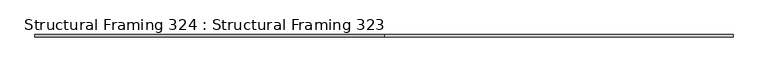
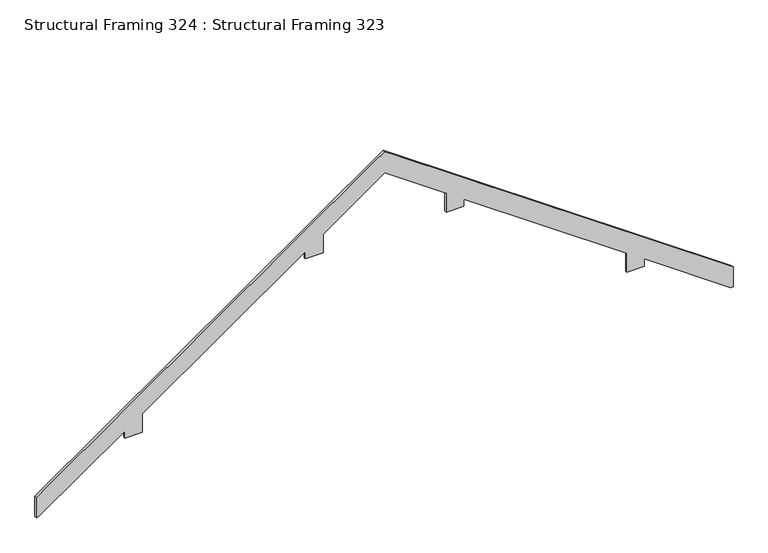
"""IFC4 building model written with IfcOpenShell, lengths in millimetres: beam geometry, Structural Framing 324 : Structural Framing 323."""

from ifc_helpers import new_model, si_unit, origin, place, context, project, spatial, faceted_brep, source, transform, mapped, element, save


def structural_framing_324_structural_framing_323_6074106b(model_context):
    return source(origin(), model_context, "Body", "Brep", [
        faceted_brep([(-2719.0115151, 3950.5508021, -144.1919814), (-2744.0115151, 3950.5508021, -144.1919814), (-2744.0115151, 3950.5508021, 94.6612147), (1206.7789073, 3950.5508021, 2861.0344503), (5157.5693297, 3950.5508021, 94.6612147), (5157.5693297, 3950.5508021, -144.1919814), (5132.5693297, 3950.5508021, -144.1919814), (4152.5693297, 3950.5508021, 542.0114061), (4152.5693297, 3950.5508021, 456.0155568), (3952.5693297, 3950.5508021, 456.0155568), (3952.5693297, 3950.5508021, 682.0529137), (2104.6892189, 3950.5508021, 1975.9524969), (2104.6892189, 3950.5508021, 1889.9566477), (1904.6892189, 3950.5508021, 1889.9566477), (1904.6892189, 3950.5508021, 2115.9940046), (1206.7789073, 3950.5508021, 2604.6760658), (508.8685956, 3950.5508021, 2115.9940046), (508.8685956, 3950.5508021, 1889.9566477), (308.8685956, 3950.5508021, 1889.9566477), (308.8685956, 3950.5508021, 1975.9524969), (-1539.0115151, 3950.5508021, 682.0529137), (-1539.0115151, 3950.5508021, 456.0155568), (-1739.0115151, 3950.5508021, 456.0155568), (-1739.0115151, 3950.5508021, 542.0114061), (-2719.0115151, 3925.5508021, -144.1919814), (-1739.0115151, 3925.5508021, 542.0114061), (-1739.0115151, 3925.5508021, 456.0155568), (-1539.0115151, 3925.5508021, 456.0155568), (-1539.0115151, 3925.5508021, 682.0529137), (308.8685956, 3925.5508021, 1975.9524969), (308.8685956, 3925.5508021, 1889.9566477), (508.8685956, 3925.5508021, 1889.9566477), (508.8685956, 3925.5508021, 2115.9940046), (1206.7789073, 3925.5508021, 2604.6760658), (1904.6892189, 3925.5508021, 2115.9940046), (1904.6892189, 3925.5508021, 1889.9566477), (2104.6892189, 3925.5508021, 1889.9566477), (2104.6892189, 3925.5508021, 1975.9524969), (3952.5693297, 3925.5508021, 682.0529137), (3952.5693297, 3925.5508021, 456.0155568), (4152.5693297, 3925.5508021, 456.0155568), (4152.5693297, 3925.5508021, 542.0114061), (5132.5693297, 3925.5508021, -144.1919814), (5157.5693297, 3925.5508021, -144.1919814), (5157.5693297, 3925.5508021, 94.6612147), (5083.3078098, 3925.5508021, 146.6596907), (1317.0280021, 3925.5508021, 2783.837203), (1206.7789073, 3925.5508021, 2861.0344503), (1096.5298124, 3925.5508021, 2783.837203), (-2669.7499953, 3925.5508021, 146.6596907), (-2744.0115151, 3925.5508021, 94.6612147), (-2744.0115151, 3925.5508021, -144.1919814)], [[[0, 1, 2, 3, 4, 5, 6, 7, 8, 9, 10, 11, 12, 13, 14, 15, 16, 17, 18, 19, 20, 21, 22, 23]], [[24, 25, 26, 27, 28, 29, 30, 31, 32, 33, 34, 35, 36, 37, 38, 39, 40, 41, 42, 43, 44, 45, 46, 47, 48, 49, 50, 51]], [[0, 23, 25, 24]], [[23, 22, 26, 25]], [[22, 21, 27, 26]], [[21, 20, 28, 27]], [[20, 19, 29, 28]], [[19, 18, 30, 29]], [[18, 17, 31, 30]], [[17, 16, 32, 31]], [[16, 15, 33, 32]], [[15, 14, 34, 33]], [[14, 13, 35, 34]], [[13, 12, 36, 35]], [[12, 11, 37, 36]], [[11, 10, 38, 37]], [[10, 9, 39, 38]], [[9, 8, 40, 39]], [[8, 7, 41, 40]], [[7, 6, 42, 41]], [[6, 5, 43, 42]], [[5, 4, 44, 43]], [[4, 3, 47, 46, 45, 44]], [[3, 2, 50, 49, 48, 47]], [[2, 1, 51, 50]], [[1, 0, 24, 51]]]),
    ])


if __name__ == "__main__":
    model = new_model("IFC4")
    model_context = context("Model", 3, world=origin())
    ifc_project = project(units=[si_unit("LENGTHUNIT", "METRE", prefix="MILLI")], contexts=[model_context])
    site = spatial("IfcSite", under=ifc_project)
    building = spatial("IfcBuilding", under=site)
    placement = place(None, origin())
    structural_framing_324_structural_framing_323_shape = structural_framing_324_structural_framing_323_6074106b(model_context)
    element("IfcBeam", 1, ObjectType="Structural Framing 324 : Structural Framing 323", at=placement, inside=building, context=model_context, shape_type="MappedRepresentation", body=[
        mapped(structural_framing_324_structural_framing_323_shape, transform((0.0, 0.0, 0.0), x_axis=(1.0, 0.0, 0.0), y_axis=(0.0, 1.0, 0.0), z_axis=(0.0, 0.0, 1.0))),
    ])
    save(model, "model.ifc")
